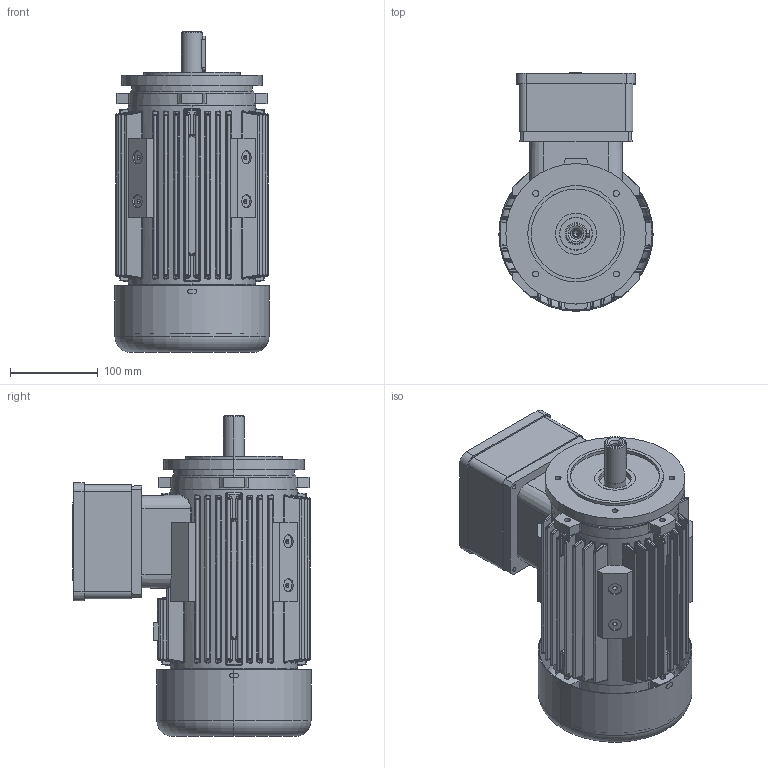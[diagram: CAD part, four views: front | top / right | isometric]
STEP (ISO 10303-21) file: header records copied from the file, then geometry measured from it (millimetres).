
FILE_DESCRIPTION (( 'STEP AP214' ), '1' );
FILE_NAME ('20.18453 7AT 90 B14_large Exde STANDK.STEP', '2018-05-09T12:42:21', ( '' ), ( '' ), 'SwSTEP 2.0', 'SolidWorks 2017', '' );
FILE_SCHEMA (( 'AUTOMOTIVE_DESIGN' ));
Length unit declared in the file: millimetre
Products named in the file (1): 20.18453 7AT 90 B14_large Exde STANDK
Bounding box: 176 x 271.8 x 366 mm (x, y, z)
Volume: 2855450.1 mm3; surface area: 895676.4 mm2
Topology: 12 solids, 12 shells, 2698 faces, 6553 edges, 3934 vertices
Faces by surface type: plane 1034, cylinder 796, bspline 635, torus 107, cone 100, sphere 26
Entity records: 130193 total; most frequent: CARTESIAN_POINT 45535, ORIENTED_EDGE 12754, DIRECTION 10815, EDGE_CURVE 6377, VERTEX_POINT 3936, AXIS2_PLACEMENT_3D 3859, LINE 3097, VECTOR 3097
